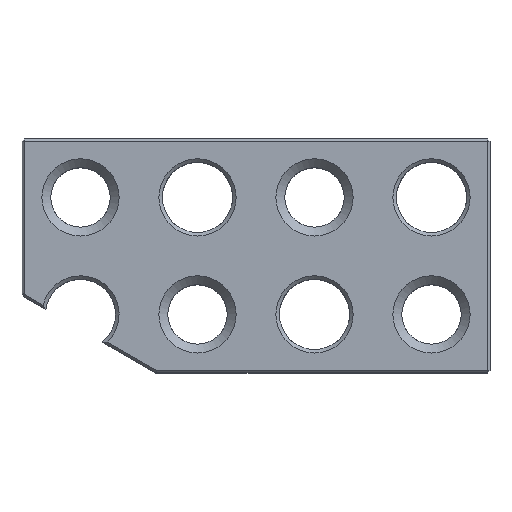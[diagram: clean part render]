
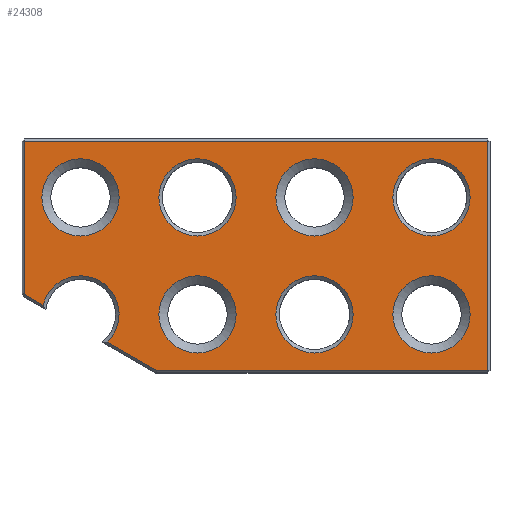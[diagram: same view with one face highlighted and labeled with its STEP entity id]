
A CAD part, top view. The second image highlights one B-rep face of the part: STEP entity #24308.
In plain terms, the highlighted planar face has unit normal (0, 0, 1).
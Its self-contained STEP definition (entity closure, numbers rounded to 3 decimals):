
#91=CIRCLE('',#24730,8.25);
#94=CIRCLE('',#24735,8.25);
#96=CIRCLE('',#24738,8.25);
#97=CIRCLE('',#24739,8.25);
#98=CIRCLE('',#24740,8.25);
#99=CIRCLE('',#24741,8.25);
#100=CIRCLE('',#24742,8.25);
#101=CIRCLE('',#24743,8.25);
#303=FACE_BOUND('',#5661,.T.);
#304=FACE_BOUND('',#5662,.T.);
#305=FACE_BOUND('',#5663,.T.);
#306=FACE_BOUND('',#5664,.T.);
#307=FACE_BOUND('',#5665,.T.);
#308=FACE_BOUND('',#5666,.T.);
#309=FACE_BOUND('',#5667,.T.);
#4300=FACE_OUTER_BOUND('',#5660,.T.);
#5660=EDGE_LOOP('',(#22303,#22304,#22305,#22306,#22307,#22308,#22309));
#5661=EDGE_LOOP('',(#22310));
#5662=EDGE_LOOP('',(#22311));
#5663=EDGE_LOOP('',(#22312));
#5664=EDGE_LOOP('',(#22313));
#5665=EDGE_LOOP('',(#22314));
#5666=EDGE_LOOP('',(#22315));
#5667=EDGE_LOOP('',(#22316));
#7323=LINE('',#49984,#9030);
#7360=LINE('',#50063,#9067);
#7363=LINE('',#50069,#9070);
#7367=LINE('',#50077,#9074);
#7369=LINE('',#50084,#9076);
#7370=LINE('',#50086,#9077);
#9030=VECTOR('',#27082,10.);
#9067=VECTOR('',#27151,10.);
#9070=VECTOR('',#27156,10.);
#9074=VECTOR('',#27166,10.);
#9076=VECTOR('',#27170,10.);
#9077=VECTOR('',#27173,10.);
#11416=VERTEX_POINT('',#49975);
#11418=VERTEX_POINT('',#49980);
#11424=VERTEX_POINT('',#50000);
#11429=VERTEX_POINT('',#50018);
#11433=VERTEX_POINT('',#50030);
#11443=VERTEX_POINT('',#50068);
#11444=VERTEX_POINT('',#50076);
#11478=VERTEX_POINT('',#50194);
#11480=VERTEX_POINT('',#50200);
#11481=VERTEX_POINT('',#50202);
#11482=VERTEX_POINT('',#50204);
#11483=VERTEX_POINT('',#50206);
#11484=VERTEX_POINT('',#50208);
#11485=VERTEX_POINT('',#50210);
#15013=EDGE_CURVE('',#11418,#11416,#7323,.T.);
#15052=EDGE_CURVE('',#11429,#11433,#7360,.T.);
#15055=EDGE_CURVE('',#11433,#11443,#7363,.T.);
#15059=EDGE_CURVE('',#11443,#11444,#7367,.T.);
#15062=EDGE_CURVE('',#11424,#11429,#7369,.T.);
#15063=EDGE_CURVE('',#11416,#11424,#7370,.T.);
#15107=EDGE_CURVE('',#11444,#11418,#91,.T.);
#15110=EDGE_CURVE('',#11478,#11478,#94,.T.);
#15113=EDGE_CURVE('',#11480,#11480,#96,.T.);
#15114=EDGE_CURVE('',#11481,#11481,#97,.T.);
#15115=EDGE_CURVE('',#11482,#11482,#98,.T.);
#15116=EDGE_CURVE('',#11483,#11483,#99,.T.);
#15117=EDGE_CURVE('',#11484,#11484,#100,.T.);
#15118=EDGE_CURVE('',#11485,#11485,#101,.T.);
#22303=ORIENTED_EDGE('',*,*,#15013,.F.);
#22304=ORIENTED_EDGE('',*,*,#15107,.F.);
#22305=ORIENTED_EDGE('',*,*,#15059,.F.);
#22306=ORIENTED_EDGE('',*,*,#15055,.F.);
#22307=ORIENTED_EDGE('',*,*,#15052,.F.);
#22308=ORIENTED_EDGE('',*,*,#15062,.F.);
#22309=ORIENTED_EDGE('',*,*,#15063,.F.);
#22310=ORIENTED_EDGE('',*,*,#15113,.F.);
#22311=ORIENTED_EDGE('',*,*,#15114,.F.);
#22312=ORIENTED_EDGE('',*,*,#15115,.F.);
#22313=ORIENTED_EDGE('',*,*,#15116,.F.);
#22314=ORIENTED_EDGE('',*,*,#15117,.F.);
#22315=ORIENTED_EDGE('',*,*,#15118,.F.);
#22316=ORIENTED_EDGE('',*,*,#15110,.F.);
#23074=PLANE('',#24737);
#24308=ADVANCED_FACE('',(#4300,#303,#304,#305,#306,#307,#308,#309),#23074,
 .T.);
#24730=AXIS2_PLACEMENT_3D('',#50188,#27262,#27263);
#24735=AXIS2_PLACEMENT_3D('',#50195,#27272,#27273);
#24737=AXIS2_PLACEMENT_3D('',#50199,#27277,#27278);
#24738=AXIS2_PLACEMENT_3D('',#50201,#27279,#27280);
#24739=AXIS2_PLACEMENT_3D('',#50203,#27281,#27282);
#24740=AXIS2_PLACEMENT_3D('',#50205,#27283,#27284);
#24741=AXIS2_PLACEMENT_3D('',#50207,#27285,#27286);
#24742=AXIS2_PLACEMENT_3D('',#50209,#27287,#27288);
#24743=AXIS2_PLACEMENT_3D('',#50211,#27289,#27290);
#27082=DIRECTION('',(-0.866,0.5,0.));
#27151=DIRECTION('',(0.,-1.,0.));
#27156=DIRECTION('',(-1.,0.,0.));
#27166=DIRECTION('',(-0.866,0.5,0.));
#27170=DIRECTION('',(1.,0.,0.));
#27173=DIRECTION('',(0.,1.,0.));
#27262=DIRECTION('center_axis',(0.,0.,1.));
#27263=DIRECTION('ref_axis',(-1.,0.,0.));
#27272=DIRECTION('center_axis',(0.,0.,1.));
#27273=DIRECTION('ref_axis',(-1.,0.,0.));
#27277=DIRECTION('center_axis',(0.,0.,1.));
#27278=DIRECTION('ref_axis',(1.,0.,0.));
#27279=DIRECTION('center_axis',(0.,0.,1.));
#27280=DIRECTION('ref_axis',(-1.,0.,0.));
#27281=DIRECTION('center_axis',(0.,0.,1.));
#27282=DIRECTION('ref_axis',(-1.,0.,0.));
#27283=DIRECTION('center_axis',(0.,0.,1.));
#27284=DIRECTION('ref_axis',(-1.,0.,0.));
#27285=DIRECTION('center_axis',(0.,0.,1.));
#27286=DIRECTION('ref_axis',(-1.,0.,0.));
#27287=DIRECTION('center_axis',(0.,0.,1.));
#27288=DIRECTION('ref_axis',(-1.,0.,0.));
#27289=DIRECTION('center_axis',(0.,0.,1.));
#27290=DIRECTION('ref_axis',(-1.,0.,0.));
#49975=CARTESIAN_POINT('',(0.5,16.789,25.));
#49980=CARTESIAN_POINT('',(4.492,14.484,25.));
#49984=CARTESIAN_POINT('',(31.449,-1.08,25.));
#50000=CARTESIAN_POINT('',(0.5,49.5,25.));
#50018=CARTESIAN_POINT('',(99.5,49.5,25.));
#50030=CARTESIAN_POINT('',(99.5,0.5,25.));
#50063=CARTESIAN_POINT('',(99.5,12.5,25.));
#50068=CARTESIAN_POINT('',(28.713,0.5,25.));
#50069=CARTESIAN_POINT('',(25.,0.5,25.));
#50076=CARTESIAN_POINT('',(18.222,6.557,25.));
#50077=CARTESIAN_POINT('',(31.449,-1.08,25.));
#50084=CARTESIAN_POINT('',(75.,49.5,25.));
#50086=CARTESIAN_POINT('',(0.5,37.5,25.));
#50188=CARTESIAN_POINT('Origin',(12.5,12.5,25.));
#50194=CARTESIAN_POINT('',(45.75,12.5,25.));
#50195=CARTESIAN_POINT('Origin',(37.5,12.5,25.));
#50199=CARTESIAN_POINT('Origin',(50.,25.,25.));
#50200=CARTESIAN_POINT('',(95.75,12.5,25.));
#50201=CARTESIAN_POINT('Origin',(87.5,12.5,25.));
#50202=CARTESIAN_POINT('',(20.75,37.5,25.));
#50203=CARTESIAN_POINT('Origin',(12.5,37.5,25.));
#50204=CARTESIAN_POINT('',(45.75,37.5,25.));
#50205=CARTESIAN_POINT('Origin',(37.5,37.5,25.));
#50206=CARTESIAN_POINT('',(95.75,37.5,25.));
#50207=CARTESIAN_POINT('Origin',(87.5,37.5,25.));
#50208=CARTESIAN_POINT('',(70.75,12.5,25.));
#50209=CARTESIAN_POINT('Origin',(62.5,12.5,25.));
#50210=CARTESIAN_POINT('',(70.75,37.5,25.));
#50211=CARTESIAN_POINT('Origin',(62.5,37.5,25.));
